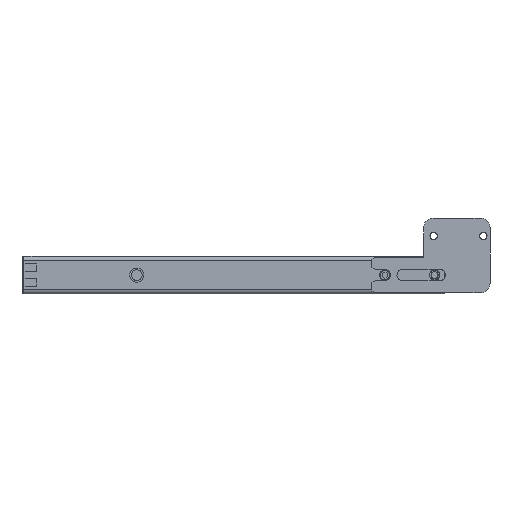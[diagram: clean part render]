
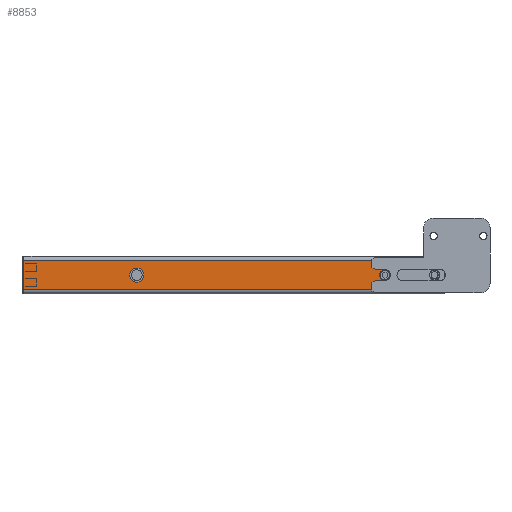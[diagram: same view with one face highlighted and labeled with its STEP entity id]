
A CAD part, left-side view. The second image highlights one B-rep face of the part: STEP entity #8853.
In plain terms, the highlighted planar face has unit normal (-1, 0, 0).
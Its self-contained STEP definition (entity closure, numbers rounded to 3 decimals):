
#6094=DIRECTION('',(0.,1.,0.));
#6095=VECTOR('',#6094,524.5);
#6096=CARTESIAN_POINT('',(-175.,109.5,22.058));
#6097=LINE('',#6096,#6095);
#6206=DIRECTION('',(0.,1.,0.));
#6207=VECTOR('',#6206,524.5);
#6208=CARTESIAN_POINT('',(-175.,109.5,-22.058));
#6209=LINE('',#6208,#6207);
#6401=DIRECTION('',(0.,0.,1.));
#6402=VECTOR('',#6401,10.921);
#6403=CARTESIAN_POINT('',(-175.,109.5,-22.058));
#6404=LINE('',#6403,#6402);
#6405=DIRECTION('',(0.,0.,-1.));
#6406=VECTOR('',#6405,10.921);
#6407=CARTESIAN_POINT('',(-175.,109.5,22.058));
#6408=LINE('',#6407,#6406);
#6409=DIRECTION('',(0.,-0.866,-0.5));
#6410=VECTOR('',#6409,5.774);
#6411=CARTESIAN_POINT('',(-175.,109.5,11.137));
#6412=LINE('',#6411,#6410);
#6413=DIRECTION('',(0.,-1.,0.));
#6414=VECTOR('',#6413,14.5);
#6415=CARTESIAN_POINT('',(-175.,104.5,8.25));
#6416=LINE('',#6415,#6414);
#6417=CARTESIAN_POINT('',(-175.,90.,0.));
#6418=DIRECTION('',(1.,0.,0.));
#6419=DIRECTION('',(0.,0.,1.));
#6420=AXIS2_PLACEMENT_3D('',#6417,#6418,#6419);
#6422=DIRECTION('',(0.,-1.,0.));
#6423=VECTOR('',#6422,14.5);
#6424=CARTESIAN_POINT('',(-175.,104.5,-8.25));
#6425=LINE('',#6424,#6423);
#6426=DIRECTION('',(0.,-0.866,0.5));
#6427=VECTOR('',#6426,5.774);
#6428=CARTESIAN_POINT('',(-175.,109.5,-11.137));
#6429=LINE('',#6428,#6427);
#6430=CARTESIAN_POINT('',(-175.,464.,0.));
#6431=DIRECTION('',(-1.,0.,0.));
#6432=DIRECTION('',(0.,-1.,0.));
#6433=AXIS2_PLACEMENT_3D('',#6430,#6431,#6432);
#6435=CARTESIAN_POINT('',(-175.,464.,0.));
#6436=DIRECTION('',(-1.,0.,0.));
#6437=DIRECTION('',(0.,1.,0.));
#6438=AXIS2_PLACEMENT_3D('',#6435,#6436,#6437);
#6440=CARTESIAN_POINT('',(-175.,90.,0.));
#6441=DIRECTION('',(-1.,0.,0.));
#6442=DIRECTION('',(0.,-1.,0.));
#6443=AXIS2_PLACEMENT_3D('',#6440,#6441,#6442);
#6445=CARTESIAN_POINT('',(-175.,90.,0.));
#6446=DIRECTION('',(-1.,0.,0.));
#6447=DIRECTION('',(0.,1.,0.));
#6448=AXIS2_PLACEMENT_3D('',#6445,#6446,#6447);
#6459=DIRECTION('',(0.,0.,-1.));
#6460=VECTOR('',#6459,44.116);
#6461=CARTESIAN_POINT('',(-175.,634.,22.058));
#6462=LINE('',#6461,#6460);
#7521=CARTESIAN_POINT('',(-175.,634.,22.058));
#7522=CARTESIAN_POINT('',(-175.,634.,-22.058));
#7523=VERTEX_POINT('',#7521);
#7524=VERTEX_POINT('',#7522);
#7561=CARTESIAN_POINT('',(-175.,453.35,0.));
#7562=CARTESIAN_POINT('',(-175.,474.65,0.));
#7563=VERTEX_POINT('',#7561);
#7564=VERTEX_POINT('',#7562);
#7649=CARTESIAN_POINT('',(-175.,109.5,-22.058));
#7650=CARTESIAN_POINT('',(-175.,109.5,-11.137));
#7651=VERTEX_POINT('',#7649);
#7652=VERTEX_POINT('',#7650);
#7665=CARTESIAN_POINT('',(-175.,104.5,8.25));
#7666=CARTESIAN_POINT('',(-175.,90.,8.25));
#7667=VERTEX_POINT('',#7665);
#7668=VERTEX_POINT('',#7666);
#7669=CARTESIAN_POINT('',(-175.,90.,-8.25));
#7670=VERTEX_POINT('',#7669);
#7671=CARTESIAN_POINT('',(-175.,104.5,-8.25));
#7672=VERTEX_POINT('',#7671);
#7673=CARTESIAN_POINT('',(-175.,109.5,22.058));
#7674=CARTESIAN_POINT('',(-175.,109.5,11.137));
#7675=VERTEX_POINT('',#7673);
#7676=VERTEX_POINT('',#7674);
#7745=CARTESIAN_POINT('',(-175.,82.,0.));
#7746=CARTESIAN_POINT('',(-175.,98.,0.));
#7747=VERTEX_POINT('',#7745);
#7748=VERTEX_POINT('',#7746);
#8817=CARTESIAN_POINT('',(-175.,0.,28.5));
#8818=DIRECTION('',(-1.,0.,0.));
#8819=DIRECTION('',(0.,0.,-1.));
#8820=AXIS2_PLACEMENT_3D('',#8817,#8818,#8819);
#8821=PLANE('',#8820);
#8822=ORIENTED_EDGE('',*,*,#8800,.F.);
#8823=ORIENTED_EDGE('',*,*,#8561,.T.);
#8825=ORIENTED_EDGE('',*,*,#8824,.F.);
#8826=ORIENTED_EDGE('',*,*,#8479,.F.);
#8828=ORIENTED_EDGE('',*,*,#8827,.T.);
#8830=ORIENTED_EDGE('',*,*,#8829,.T.);
#8832=ORIENTED_EDGE('',*,*,#8831,.T.);
#8834=ORIENTED_EDGE('',*,*,#8833,.T.);
#8836=ORIENTED_EDGE('',*,*,#8835,.F.);
#8838=ORIENTED_EDGE('',*,*,#8837,.F.);
#8839=EDGE_LOOP('',(#8822,#8823,#8825,#8826,#8828,#8830,#8832,#8834,#8836,
#8838));
#8840=FACE_OUTER_BOUND('',#8839,.F.);
#8842=ORIENTED_EDGE('',*,*,#8841,.T.);
#8844=ORIENTED_EDGE('',*,*,#8843,.T.);
#8845=EDGE_LOOP('',(#8842,#8844));
#8846=FACE_BOUND('',#8845,.F.);
#8848=ORIENTED_EDGE('',*,*,#8847,.T.);
#8850=ORIENTED_EDGE('',*,*,#8849,.T.);
#8851=EDGE_LOOP('',(#8848,#8850));
#8852=FACE_BOUND('',#8851,.F.);
#6421=CIRCLE('',#6420,8.25);
#6434=CIRCLE('',#6433,10.65);
#6439=CIRCLE('',#6438,10.65);
#6444=CIRCLE('',#6443,8.);
#6449=CIRCLE('',#6448,8.);
#8479=EDGE_CURVE('',#7675,#7523,#6097,.T.);
#8561=EDGE_CURVE('',#7651,#7524,#6209,.T.);
#8800=EDGE_CURVE('',#7651,#7652,#6404,.T.);
#8824=EDGE_CURVE('',#7523,#7524,#6462,.T.);
#8827=EDGE_CURVE('',#7675,#7676,#6408,.T.);
#8829=EDGE_CURVE('',#7676,#7667,#6412,.T.);
#8831=EDGE_CURVE('',#7667,#7668,#6416,.T.);
#8833=EDGE_CURVE('',#7668,#7670,#6421,.T.);
#8835=EDGE_CURVE('',#7672,#7670,#6425,.T.);
#8837=EDGE_CURVE('',#7652,#7672,#6429,.T.);
#8841=EDGE_CURVE('',#7563,#7564,#6434,.T.);
#8843=EDGE_CURVE('',#7564,#7563,#6439,.T.);
#8847=EDGE_CURVE('',#7747,#7748,#6444,.T.);
#8849=EDGE_CURVE('',#7748,#7747,#6449,.T.);
#8853=ADVANCED_FACE('',(#8840,#8846,#8852),#8821,.T.);
